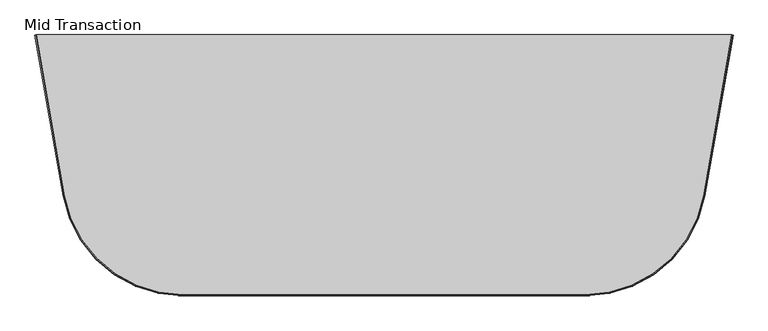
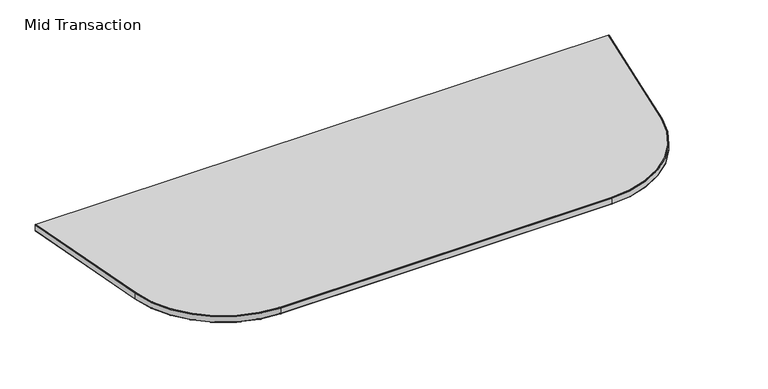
"""IFC4 building model written with IfcOpenShell, lengths in millimetres: furniture geometry, Steelcase Turnstone - Bivi - Table - Transaction : Mid Transaction."""

from ifc_helpers import new_model, si_unit, point, frame, frame_2d, origin, place, context, project, spatial, polyline, circle_curve, ellipse_curve, trimmed, segment, composite_curve, outline, extrude, source, transform, mapped, element, save
from ifc_brep_helpers import plane_surface, cylinder_surface, revolved_surface, advanced_brep


def mid_transaction_fcdc6f12(model_context):
    return source(origin(), model_context, "Body", "SolidModel", [
        advanced_brep(
        [(154.5481557, -0.9500173, 1034.4376155), (153.5460147, -1.1267, 1034.4376155), (152.5454463, -1.3031055, 1035.4536155), (152.5454463, -1.3031055, 1047.3163545), (153.6175317, -1.1140912, 1048.4049746), (154.5481557, -0.9500173, 1048.4049746), (1369.5668027, -0.9500173, 1034.4376155), (1369.5668027, -0.9500173, 1048.4049746), (1370.4974232, -1.1141108, 1048.4049746), (1371.5695046, -1.3031477, 1047.3163545), (1371.5695046, -1.3031477, 1035.4536155), (1370.5689399, -1.1267211, 1034.4376155), (204.1484724, -282.2820676, 1034.4376155), (410.515704, -455.4484417, 1034.4376155), (1113.5931401, -455.4484417, 1034.4376155), (1319.9596047, -282.2864174, 1034.4376155), (1320.9617419, -282.4631212, 1034.4376155), (1113.5931401, -456.4660385, 1034.4376155), (410.515704, -456.4660385, 1034.4376155), (203.1463314, -282.4587503, 1034.4376155), (202.145763, -282.6351557, 1035.4536155), (202.145763, -282.6351557, 1047.3163545), (203.2178484, -282.4461414, 1048.4049746), (410.515704, -456.3934185, 1048.4049746), (1113.5931401, -456.3934185, 1048.4049746), (1320.8902252, -282.4505109, 1048.4049746), (1319.9596047, -282.2864174, 1048.4049746), (1113.5931401, -455.4484417, 1048.4049746), (410.515704, -455.4484417, 1048.4049746), (204.1484724, -282.2820676, 1048.4049746), (410.515704, -457.4820385, 1035.4536155), (410.515704, -457.4820385, 1047.3163545), (1113.5931401, -457.4820385, 1035.4536155), (1113.5931401, -457.4820385, 1047.3163545), (1321.9623066, -282.6395477, 1035.4536155), (1321.9623066, -282.6395477, 1047.3163545)],
        [
            (0, 1),
            (1, 2, circle_curve(frame((153.5460147, -1.1267, 1035.4536155), z_axis=(-0.17362741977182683, 0.9848114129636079, 0.0), x_axis=(-0.9848114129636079, -0.17362741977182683, 0.0)), 1.016)),
            (2, 3),
            (3, 4, circle_curve(frame((153.6175317, -1.1140912, 1047.3163545), z_axis=(-0.17362741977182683, 0.9848114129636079, 0.0), x_axis=(-0.9848114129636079, -0.17362741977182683, 0.0)), 1.08862)),
            (4, 5),
            (5, 0),
            (6, 7),
            (7, 8),
            (8, 9, circle_curve(frame((1370.4974232, -1.1141108, 1047.3163545), z_axis=(0.17364817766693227, 0.9848077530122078, 0.0), x_axis=(0.9848077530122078, -0.17364817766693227, 0.0)), 1.08862)),
            (9, 10),
            (10, 11, circle_curve(frame((1370.5689399, -1.1267211, 1035.4536155), z_axis=(0.17364817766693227, 0.9848077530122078, 0.0), x_axis=(0.9848077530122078, -0.17364817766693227, 0.0)), 1.016)),
            (11, 6),
            (0, 12),
            (12, 13, circle_curve(frame((410.515704, -245.8984417, 1034.4376155), z_axis=(0.0, 0.0, 1.0), x_axis=(-0.9848114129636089, -0.1736274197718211, 0.0)), 209.55)),
            (13, 14),
            (14, 15, circle_curve(frame((1113.5931401, -245.8984417, 1034.4376155), z_axis=(0.0, 0.0, 1.0), x_axis=(0.0, -1.0, 0.0)), 209.55)),
            (15, 6),
            (11, 16),
            (16, 17, circle_curve(frame((1113.5931401, -245.8984417, 1034.4376155), z_axis=(0.0, 0.0, -1.0), x_axis=(0.0, -1.0, 0.0)), 210.5675968)),
            (17, 18),
            (18, 19, circle_curve(frame((410.515704, -245.8984417, 1034.4376155), z_axis=(0.0, 0.0, -1.0), x_axis=(-0.9848114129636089, -0.1736274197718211, 0.0)), 210.5675968)),
            (19, 1),
            (19, 20, circle_curve(frame((203.1463314, -282.4587503, 1035.4536155), z_axis=(-0.17362741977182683, 0.9848114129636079, 0.0), x_axis=(-0.9848114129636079, -0.17362741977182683, 0.0)), 1.016)),
            (20, 2),
            (20, 21),
            (21, 3),
            (21, 22, circle_curve(frame((203.2178484, -282.4461414, 1047.3163545), z_axis=(-0.17362741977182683, 0.9848114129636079, 0.0), x_axis=(-0.9848114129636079, -0.17362741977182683, 0.0)), 1.08862)),
            (22, 4),
            (22, 23, circle_curve(frame((410.515704, -245.8984417, 1048.4049746), z_axis=(0.0, 0.0, 1.0), x_axis=(-0.9848114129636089, -0.1736274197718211, 0.0)), 210.4949768)),
            (23, 24),
            (24, 25, circle_curve(frame((1113.5931401, -245.8984417, 1048.4049746), z_axis=(0.0, 0.0, 1.0), x_axis=(0.0, -1.0, 0.0)), 210.4949768)),
            (25, 8),
            (7, 26),
            (26, 27, circle_curve(frame((1113.5931401, -245.8984417, 1048.4049746), z_axis=(0.0, 0.0, -1.0), x_axis=(0.0, -1.0, 0.0)), 209.55)),
            (27, 28),
            (28, 29, circle_curve(frame((410.515704, -245.8984417, 1048.4049746), z_axis=(0.0, 0.0, -1.0), x_axis=(-0.9848114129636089, -0.1736274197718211, 0.0)), 209.55)),
            (29, 5),
            (29, 12),
            (30, 20, circle_curve(frame((410.515704, -245.8984417, 1035.4536155), z_axis=(0.0, 0.0, -1.0), x_axis=(-0.9848114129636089, -0.1736274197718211, 0.0)), 211.5835968)),
            (18, 30, circle_curve(frame((410.515704, -456.4660385, 1035.4536155), z_axis=(-1.0, 0.0, 0.0), x_axis=(0.0, -1.0, 0.0)), 1.016)),
            (31, 21, circle_curve(frame((410.515704, -245.8984417, 1047.3163545), z_axis=(0.0, 0.0, -1.0), x_axis=(-0.9848114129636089, -0.1736274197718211, 0.0)), 211.5835968)),
            (30, 31),
            (31, 23, circle_curve(frame((410.515704, -456.3934185, 1047.3163545), z_axis=(-1.0, 0.0, 0.0), x_axis=(0.0, -1.0, 0.0)), 1.08862)),
            (28, 13),
            (17, 32, circle_curve(frame((1113.5931401, -456.4660385, 1035.4536155), z_axis=(-1.0, 0.0, 0.0), x_axis=(0.0, -1.0, 0.0)), 1.016)),
            (32, 30),
            (32, 33),
            (33, 31),
            (33, 24, circle_curve(frame((1113.5931401, -456.3934185, 1047.3163545), z_axis=(-1.0, 0.0, 0.0), x_axis=(0.0, -1.0, 0.0)), 1.08862)),
            (27, 14),
            (34, 32, circle_curve(frame((1113.5931401, -245.8984417, 1035.4536155), z_axis=(0.0, 0.0, -1.0), x_axis=(0.0, -1.0, 0.0)), 211.5835968)),
            (16, 34, circle_curve(frame((1320.9617419, -282.4631212, 1035.4536155), z_axis=(-0.17364817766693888, -0.9848077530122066, 0.0), x_axis=(0.9848077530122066, -0.17364817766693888, 0.0)), 1.016)),
            (35, 33, circle_curve(frame((1113.5931401, -245.8984417, 1047.3163545), z_axis=(0.0, 0.0, -1.0), x_axis=(0.0, -1.0, 0.0)), 211.5835968)),
            (34, 35),
            (35, 25, circle_curve(frame((1320.8902252, -282.4505109, 1047.3163545), z_axis=(-0.17364817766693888, -0.9848077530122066, 0.0), x_axis=(0.9848077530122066, -0.17364817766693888, 0.0)), 1.08862)),
            (26, 15),
            (10, 34),
            (9, 35),
        ],
        [
            plane_surface(frame((154.5481557, -0.9500173, 0.0), z_axis=(-0.17362741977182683, 0.9848114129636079, 0.0), x_axis=(0.0, 0.0, 1.0))),
            plane_surface(frame((1369.5668027, -0.9500173, 0.0), z_axis=(0.17364817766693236, 0.9848077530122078, 0.0), x_axis=(0.0, 0.0, 1.0))),
            plane_surface(frame((154.5481557, -0.9500173, 1034.4376155), z_axis=(0.0, 0.0, -1.0000000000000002), x_axis=(0.17362741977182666, -0.984811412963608, 0.0))),
            cylinder_surface(frame((153.5460147, -1.1267, 1035.4536155), z_axis=(-0.17362741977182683, 0.9848114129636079, 0.0), x_axis=(-0.9848114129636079, -0.17362741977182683, 0.0)), 1.016),
            plane_surface(frame((152.5454463, -1.3031055, 1035.4536155), z_axis=(-0.9848114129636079, -0.17362741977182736, 0.0), x_axis=(0.17362741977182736, -0.9848114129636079, 0.0))),
            cylinder_surface(frame((153.6175317, -1.1140912, 1047.3163545), z_axis=(-0.17362741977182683, 0.9848114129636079, 0.0), x_axis=(-0.9848114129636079, -0.17362741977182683, 0.0)), 1.08862),
            plane_surface(frame((153.6175317, -1.1140912, 1048.4049746), z_axis=(0.0, 0.0, 1.0), x_axis=(0.17362741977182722, -0.9848114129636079, 0.0))),
            plane_surface(frame((154.5481557, -0.9500173, 1048.4049746), z_axis=(0.984811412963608, 0.17362741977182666, 0.0), x_axis=(0.17362741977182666, -0.984811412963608, 0.0))),
            revolved_surface(trimmed(ellipse_curve(frame((203.1463314, -282.4587503, 1035.4536155), z_axis=(-0.17362741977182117, 0.9848114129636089, 0.0), x_axis=(-0.9848114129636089, -0.17362741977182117, 0.0)), 1.016, 1.016), [point((203.1463314, -282.4587503, 1034.4376155))], [point((202.145763, -282.6351557, 1035.4536155))], True, "CARTESIAN"), (410.515704, -245.8984417, 0.0), (0.0, 0.0, 1.0)),
            cylinder_surface(frame((410.515704, -245.8984417, 0.0), z_axis=(0.0, 0.0, 1.0), x_axis=(-0.9848114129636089, -0.1736274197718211, 0.0)), 211.5835968),
            revolved_surface(trimmed(ellipse_curve(frame((203.2178484, -282.4461414, 1047.3163545), z_axis=(-0.17362741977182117, 0.9848114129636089, 0.0), x_axis=(-0.9848114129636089, -0.17362741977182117, 0.0)), 1.08862, 1.08862), [point((202.145763, -282.6351557, 1047.3163545))], [point((203.2178484, -282.4461414, 1048.4049746))], True, "CARTESIAN"), (410.515704, -245.8984417, 0.0), (0.0, 0.0, 1.0)),
            revolved_surface(polyline([(204.1484724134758, -282.2820675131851, 1048.4049746), (204.1484724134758, -282.2820675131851, 1034.4376155)]), (410.515704, -245.8984417, 0.0), (0.0, 0.0, 1.0)),
            cylinder_surface(frame((410.515704, -456.4660385, 1035.4536155), z_axis=(-1.0, 0.0, 0.0), x_axis=(0.0, -1.0, 0.0)), 1.016),
            plane_surface(frame((410.515704, -457.4820385, 1035.4536155), z_axis=(0.0, -1.0, 0.0), x_axis=(1.0, 0.0, 0.0))),
            cylinder_surface(frame((410.515704, -456.3934185, 1047.3163545), z_axis=(-1.0, 0.0, 0.0), x_axis=(0.0, -1.0, 0.0)), 1.08862),
            plane_surface(frame((410.515704, -455.4484417, 1048.4049746), z_axis=(0.0, 1.0, 0.0), x_axis=(1.0, 0.0, 0.0))),
            revolved_surface(trimmed(ellipse_curve(frame((1113.5931401, -456.4660385, 1035.4536155), z_axis=(-1.0, 0.0, 0.0), x_axis=(0.0, -1.0, 0.0)), 1.016, 1.016), [point((1113.5931401, -456.4660385, 1034.4376155))], [point((1113.5931401, -457.4820385, 1035.4536155))], True, "CARTESIAN"), (1113.5931401, -245.8984417, 0.0), (0.0, 0.0, 1.0)),
            cylinder_surface(frame((1113.5931401, -245.8984417, 0.0), z_axis=(0.0, 0.0, 1.0), x_axis=(0.0, -1.0, 0.0)), 211.5835968),
            revolved_surface(trimmed(ellipse_curve(frame((1113.5931401, -456.3934185, 1047.3163545), z_axis=(-1.0, 0.0, 0.0), x_axis=(0.0, -1.0, 0.0)), 1.08862, 1.08862), [point((1113.5931401, -457.4820385, 1047.3163545))], [point((1113.5931401, -456.3934185, 1048.4049746))], True, "CARTESIAN"), (1113.5931401, -245.8984417, 0.0), (0.0, 0.0, 1.0)),
            revolved_surface(polyline([(1113.5931401, -455.4484417, 1048.4049746), (1113.5931401, -455.4484417, 1034.4376155)]), (1113.5931401, -245.8984417, 0.0), (0.0, 0.0, 1.0)),
            cylinder_surface(frame((1320.9617419, -282.4631212, 1035.4536155), z_axis=(-0.17364817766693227, -0.9848077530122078, 0.0), x_axis=(0.9848077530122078, -0.17364817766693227, 0.0)), 1.016),
            plane_surface(frame((1321.9623066, -282.6395477, 1035.4536155), z_axis=(0.9848077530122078, -0.1736481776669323, 0.0), x_axis=(0.1736481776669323, 0.9848077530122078, 0.0))),
            cylinder_surface(frame((1320.8902252, -282.4505109, 1047.3163545), z_axis=(-0.17364817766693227, -0.9848077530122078, 0.0), x_axis=(0.9848077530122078, -0.17364817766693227, 0.0)), 1.08862),
            plane_surface(frame((1319.9596047, -282.2864174, 1048.4049746), z_axis=(-0.9848077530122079, 0.17364817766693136, 0.0), x_axis=(0.17364817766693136, 0.9848077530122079, 0.0))),
        ],
        [
            (0, [[1, 2, 3, 4, 5, 6]]),
            (1, [[7, 8, 9, 10, 11, 12]]),
            (2, [[-1, 13, 14, 15, 16, 17, -12, 18, 19, 20, 21, 22]]),
            (3, [[-2, -22, 23, 24]]),
            (4, [[-3, -24, 25, 26]]),
            (5, [[-4, -26, 27, 28]]),
            (6, [[-5, -28, 29, 30, 31, 32, -8, 33, 34, 35, 36, 37]]),
            (7, [[-6, -37, 38, -13]]),
            (8, [[39, -23, -21, 40]]),
            (9, [[41, -25, -39, 42]]),
            (10, [[-29, -27, -41, 43]]),
            (11, [[-14, -38, -36, 44]]),
            (12, [[-40, -20, 45, 46]]),
            (13, [[-42, -46, 47, 48]]),
            (14, [[-43, -48, 49, -30]]),
            (15, [[-44, -35, 50, -15]]),
            (16, [[51, -45, -19, 52]]),
            (17, [[53, -47, -51, 54]]),
            (18, [[-31, -49, -53, 55]]),
            (19, [[-16, -50, -34, 56]]),
            (20, [[-52, -18, -11, 57]]),
            (21, [[-54, -57, -10, 58]]),
            (22, [[-55, -58, -9, -32]]),
            (23, [[-56, -33, -7, -17]]),
        ],
    ),
        extrude(outline(composite_curve([segment(polyline([(1369.5668027, -0.9500173), (1319.9596047, -282.2864174)]), True, "CONTINUOUS"), segment(trimmed(circle_curve(frame_2d((1113.5931401, -245.8984417)), 209.55), [point((1319.9596047, -282.2864174))], [point((1113.5931401, -455.4484417))], False, "CARTESIAN"), True, "CONTINUOUS"), segment(polyline([(1113.5931401, -455.4484417), (410.515704, -455.4484417)]), True, "CONTINUOUS"), segment(trimmed(circle_curve(frame_2d((410.515704, -245.8984417)), 209.55), [point((410.515704, -455.4484417))], [point((204.1484724, -282.2820676))], False, "CARTESIAN"), True, "CONTINUOUS"), segment(polyline([(204.1484724, -282.2820676), (154.5481557, -0.9500173), (1369.5668027, -0.9500173)]), True, "CONTINUOUS")], self_intersect=False)), frame((0.0, 0.0, 1034.4354057), z_axis=(0.0, 0.0, 1.0), x_axis=(1.0, 0.0, 0.0)), (0.0, 0.0, 1.0), 14.0002356),
    ])


if __name__ == "__main__":
    model = new_model("IFC4")
    model_context = context("Model", 3, world=origin())
    ifc_project = project(units=[si_unit("LENGTHUNIT", "METRE", prefix="MILLI")], contexts=[model_context])
    site = spatial("IfcSite", under=ifc_project)
    building = spatial("IfcBuilding", under=site)
    placement = place(None, origin())
    mid_transaction_shape = mid_transaction_fcdc6f12(model_context)
    element("IfcFurniture", 1, ObjectType="Steelcase Turnstone - Bivi - Table - Transaction : Mid Transaction", at=placement, inside=building, context=model_context, shape_type="MappedRepresentation", body=[
        mapped(mid_transaction_shape, transform((0.0, 0.0, 0.0), x_axis=(1.0, 0.0, 0.0), y_axis=(0.0, 1.0, 0.0), z_axis=(0.0, 0.0, 1.0))),
    ])
    save(model, "model.ifc")
